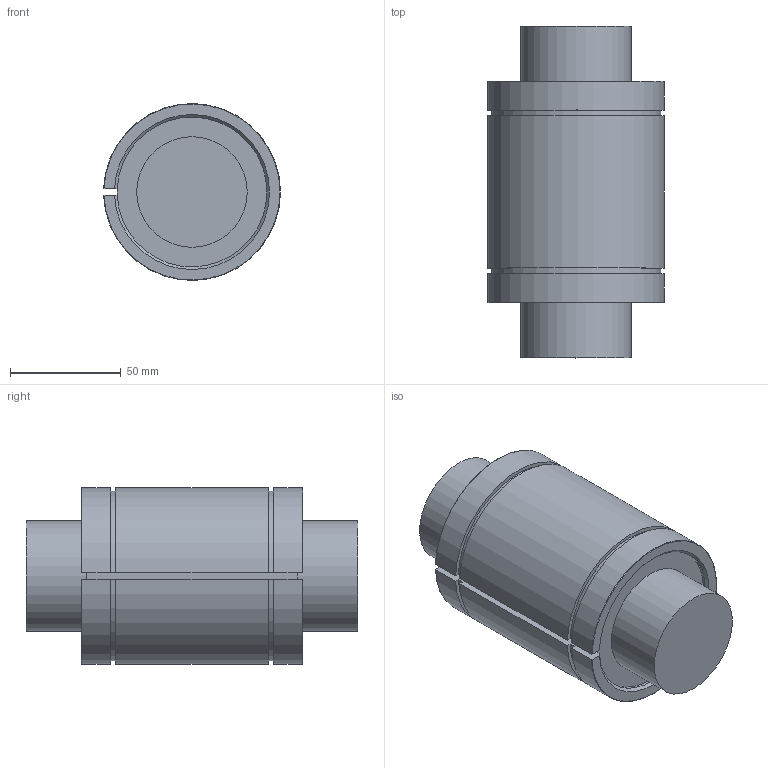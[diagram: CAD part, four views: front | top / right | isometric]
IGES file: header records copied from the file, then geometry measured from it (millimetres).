
Global section: file name: No Iges File Name specified; native system: Autodesk Inventor 2012; preprocessor: AutoDesk Inventor Iges Exporter R2012; author: user2; date: 20130206.101734; units: millimetre
Bounding box: 79.97 x 150 x 79.99 mm (x, y, z)
Volume: 588610.7 mm3; surface area: 47267.8 mm2
Topology: 1 solids, 1 shells, 26 faces, 64 edges, 42 vertices
Faces by surface type: plane 12, cylinder 8, revolution 4, torus 2
Full cylindrical faces by diameter (mm): 50 x2
